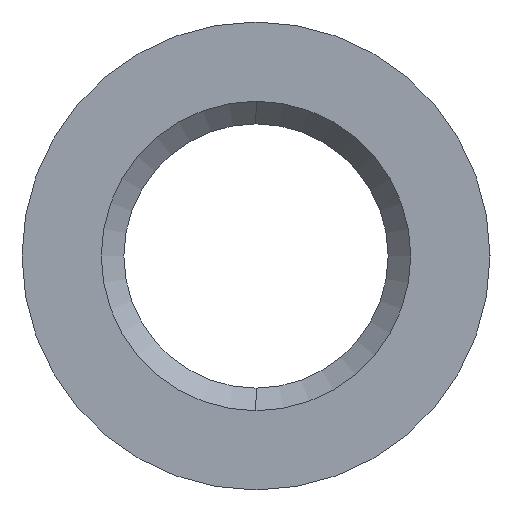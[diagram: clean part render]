
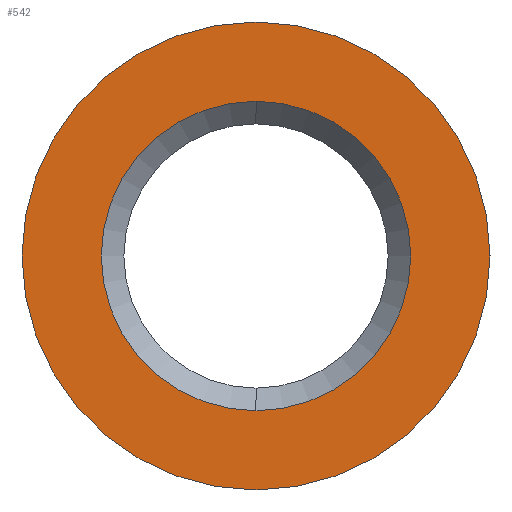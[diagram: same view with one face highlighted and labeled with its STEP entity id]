
A CAD part, left-side view. The second image highlights one B-rep face of the part: STEP entity #542.
In plain terms, the highlighted planar face has unit normal (-1, 0, 0).
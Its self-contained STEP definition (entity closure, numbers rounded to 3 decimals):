
#323 = VERTEX_POINT ( 'NONE', #736 ) ;
#325 = EDGE_CURVE ( 'NONE', #323, #326, #722, .T. ) ;
#326 = VERTEX_POINT ( 'NONE', #782 ) ;
#380 = EDGE_CURVE ( 'NONE', #438, #484, #884, .T. ) ;
#438 = VERTEX_POINT ( 'NONE', #1208 ) ;
#484 = VERTEX_POINT ( 'NONE', #1117 ) ;
#524 = ORIENTED_EDGE ( 'NONE', *, *, #543, .F. ) ;
#536 = EDGE_LOOP ( 'NONE', ( #524, #585 ) ) ;
#537 = ORIENTED_EDGE ( 'NONE', *, *, #538, .T. ) ;
#538 = EDGE_CURVE ( 'NONE', #484, #438, #1061, .T. ) ;
#542 = ADVANCED_FACE ( 'NONE', ( #1199, #1198 ), #1197, .F. ) ;
#543 = EDGE_CURVE ( 'NONE', #326, #323, #1191, .T. ) ;
#544 = ORIENTED_EDGE ( 'NONE', *, *, #380, .T. ) ;
#564 = EDGE_LOOP ( 'NONE', ( #544, #537 ) ) ;
#585 = ORIENTED_EDGE ( 'NONE', *, *, #325, .F. ) ;
#682 = DIRECTION ( 'NONE',  ( 1., 0., 0. ) ) ;
#686 = DIRECTION ( 'NONE',  ( 0., 0., -1. ) ) ;
#718 = CARTESIAN_POINT ( 'NONE',  ( 0., 0., 0. ) ) ;
#719 = AXIS2_PLACEMENT_3D ( 'NONE', #718, #682, #686 ) ;
#722 = CIRCLE ( 'NONE', #719, 3.1 ) ;
#736 = CARTESIAN_POINT ( 'NONE',  ( 0., 0., -3.1 ) ) ;
#782 = CARTESIAN_POINT ( 'NONE',  ( 0., 0., 3.1 ) ) ;
#879 = CARTESIAN_POINT ( 'NONE',  ( 0., 0., 0. ) ) ;
#880 = AXIS2_PLACEMENT_3D ( 'NONE', #879, #883, #882 ) ;
#882 = DIRECTION ( 'NONE',  ( 0., 0., -1. ) ) ;
#883 = DIRECTION ( 'NONE',  ( 1., 0., 0. ) ) ;
#884 = CIRCLE ( 'NONE', #880, 2.05 ) ;
#1060 = CARTESIAN_POINT ( 'NONE',  ( 0., 0., 0. ) ) ;
#1061 = CIRCLE ( 'NONE', #1206, 2.05 ) ;
#1117 = CARTESIAN_POINT ( 'NONE',  ( 0., 0., -2.05 ) ) ;
#1188 = DIRECTION ( 'NONE',  ( 0., 0., -1. ) ) ;
#1189 = DIRECTION ( 'NONE',  ( 1., 0., 0. ) ) ;
#1190 = AXIS2_PLACEMENT_3D ( 'NONE', #1195, #1189, #1188 ) ;
#1191 = CIRCLE ( 'NONE', #1190, 3.1 ) ;
#1192 = DIRECTION ( 'NONE',  ( 0., 0., -1. ) ) ;
#1193 = DIRECTION ( 'NONE',  ( 1., 0., 0. ) ) ;
#1194 = AXIS2_PLACEMENT_3D ( 'NONE', #1196, #1193, #1192 ) ;
#1195 = CARTESIAN_POINT ( 'NONE',  ( 0., 0., 0. ) ) ;
#1196 = CARTESIAN_POINT ( 'NONE',  ( 0., 0., 0. ) ) ;
#1197 = PLANE ( 'NONE',  #1194 ) ;
#1198 = FACE_OUTER_BOUND ( 'NONE', #536, .T. ) ;
#1199 = FACE_BOUND ( 'NONE', #564, .T. ) ;
#1204 = DIRECTION ( 'NONE',  ( 0., 0., -1. ) ) ;
#1205 = DIRECTION ( 'NONE',  ( 1., 0., 0. ) ) ;
#1206 = AXIS2_PLACEMENT_3D ( 'NONE', #1060, #1205, #1204 ) ;
#1208 = CARTESIAN_POINT ( 'NONE',  ( 0., 0., 2.05 ) ) ;
